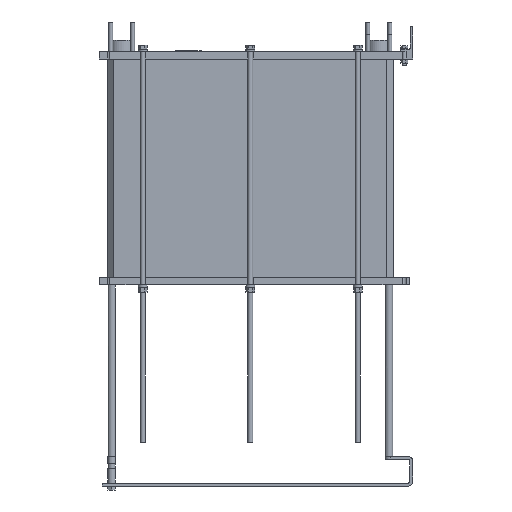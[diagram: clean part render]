
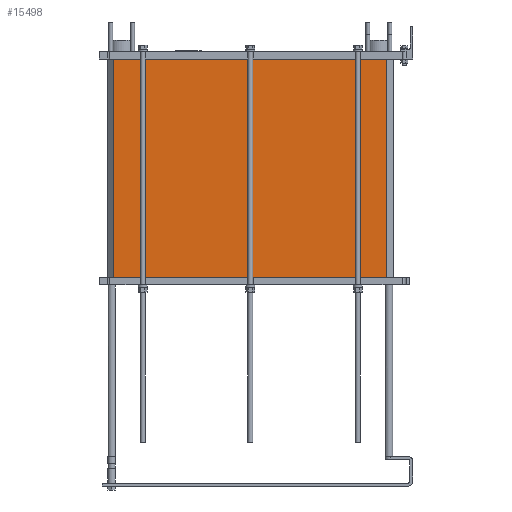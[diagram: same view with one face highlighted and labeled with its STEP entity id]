
A CAD part, left-side view. The second image highlights one B-rep face of the part: STEP entity #15498.
In plain terms, the highlighted planar face has unit normal (-1, 0, 0).
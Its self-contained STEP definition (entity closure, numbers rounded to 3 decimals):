
#1466=LINE('',#25351,#3061);
#1504=LINE('',#25451,#3099);
#1581=LINE('',#25620,#3176);
#1582=LINE('',#25622,#3177);
#3061=VECTOR('',#20768,1100.);
#3099=VECTOR('',#20836,1100.);
#3176=VECTOR('',#21073,880.);
#3177=VECTOR('',#21076,880.);
#3778=PLANE('',#16875);
#4825=FACE_OUTER_BOUND('',#5876,.T.);
#5876=EDGE_LOOP('',(#14021,#14022,#14023,#14024));
#7881=VERTEX_POINT('',#25348);
#7882=VERTEX_POINT('',#25350);
#7928=VERTEX_POINT('',#25448);
#7929=VERTEX_POINT('',#25450);
#9875=EDGE_CURVE('',#7881,#7882,#1466,.T.);
#9923=EDGE_CURVE('',#7929,#7928,#1504,.T.);
#10006=EDGE_CURVE('',#7881,#7929,#1581,.T.);
#10007=EDGE_CURVE('',#7882,#7928,#1582,.T.);
#14021=ORIENTED_EDGE('',*,*,#9923,.T.);
#14022=ORIENTED_EDGE('',*,*,#10007,.F.);
#14023=ORIENTED_EDGE('',*,*,#9875,.F.);
#14024=ORIENTED_EDGE('',*,*,#10006,.T.);
#15498=ADVANCED_FACE('',(#4825),#3778,.T.);
#16875=AXIS2_PLACEMENT_3D('',#25621,#21074,#21075);
#20768=DIRECTION('',(0.,-1.,0.));
#20836=DIRECTION('',(0.,-1.,0.));
#21073=DIRECTION('',(0.,0.,-1.));
#21074=DIRECTION('center_axis',(-1.,0.,0.));
#21075=DIRECTION('ref_axis',(0.,0.,1.));
#21076=DIRECTION('',(0.,0.,-1.));
#25348=CARTESIAN_POINT('',(-125.,550.,0.));
#25350=CARTESIAN_POINT('',(-125.,-550.,0.));
#25351=CARTESIAN_POINT('',(-125.,264.791,0.));
#25448=CARTESIAN_POINT('',(-125.,-550.,-880.));
#25450=CARTESIAN_POINT('',(-125.,550.,-880.));
#25451=CARTESIAN_POINT('',(-125.,575.,-880.));
#25620=CARTESIAN_POINT('',(-125.,550.,0.));
#25621=CARTESIAN_POINT('Origin',(-125.,550.,0.));
#25622=CARTESIAN_POINT('',(-125.,-550.,0.));
